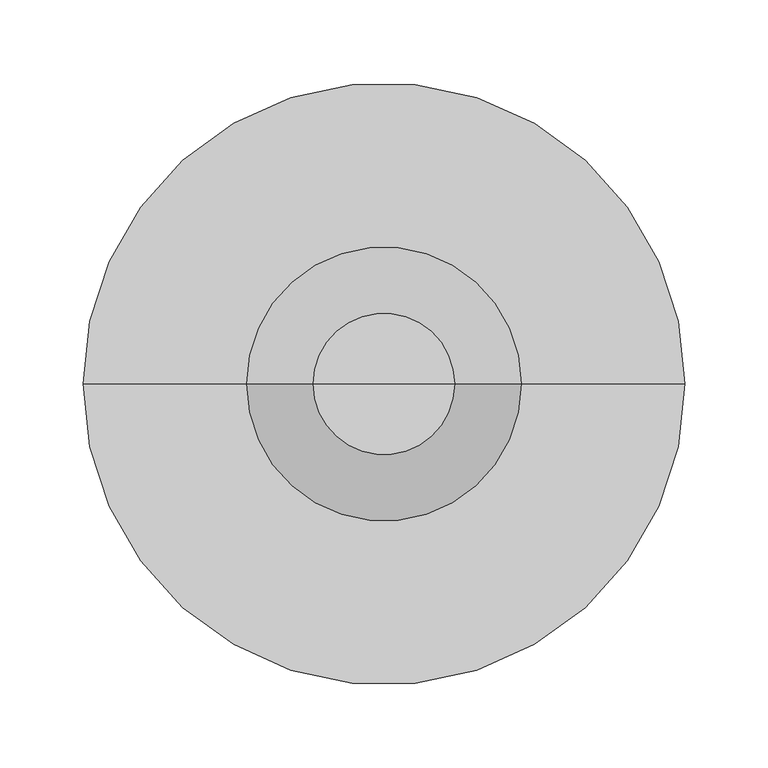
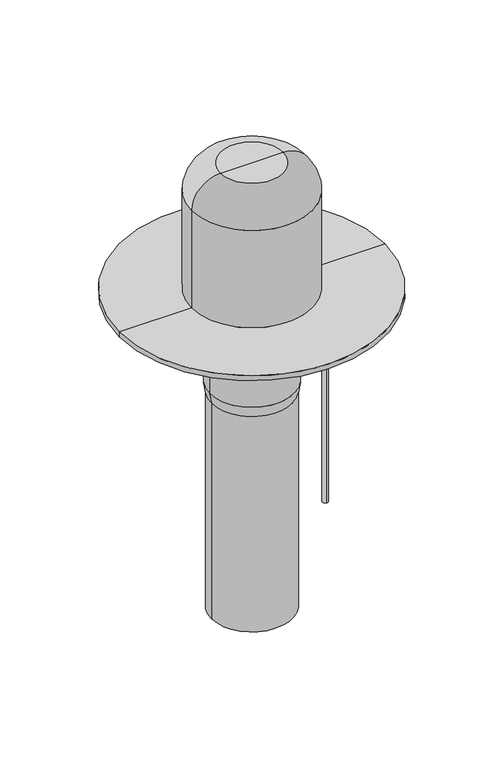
"""IFC4 building model written with IfcOpenShell, lengths in millimetres: flow terminal geometry, BIMLIB_Воронка_Кровельная_Fachmann_VO-PVC : 110х450."""

from ifc_helpers import new_model, si_unit, point, frame, frame_2d, origin, origin_with_axes, place, context, project, spatial, polyline, circle_curve, ellipse_curve, trimmed, segment, composite_curve, outline, extrude, source, transform, mapped, element, save
from ifc_brep_helpers import plane_surface, cylinder_surface, revolved_surface, advanced_brep


def flow_terminal_da2fb88d(model_context):
    return source(origin(), model_context, "Body", "SolidModel", [
        extrude(outline(composite_curve([segment(trimmed(circle_curve(frame_2d((100.0, 0.0)), 4.0), [point((100.0, 4.0))], [point((100.0, -4.0))], False, "CARTESIAN"), True, "CONTINUOUS"), segment(trimmed(circle_curve(frame_2d((100.0, 0.0)), 4.0), [point((100.0, -4.0))], [point((100.0, 4.0))], False, "CARTESIAN"), True, "CONTINUOUS")], self_intersect=False)), frame((0.0, 0.0, -335.0), z_axis=(0.0, 0.0, 1.0), x_axis=(1.0, 0.0, 0.0)), (0.0, 0.0, 1.0), 300.0),
        advanced_brep(
        [(55.0, 0.0, -450.0), (-55.0, 0.0, -450.0), (-55.0, 0.0, -140.0), (55.0, 0.0, -140.0), (-57.5, 0.0, -125.0), (57.5, 0.0, -125.0), (-57.5, 0.0, -75.0), (57.5, 0.0, -75.0), (-82.5, 0.0, -35.0), (82.5, 0.0, -35.0), (-111.5, 0.0, -35.0), (111.5, 0.0, -35.0), (-111.5, 0.0, 0.0), (111.5, 0.0, 0.0), (0.0, 0.0, 0.0)],
        [
            (0, 1, circle_curve(frame((0.0, 0.0, -450.0), z_axis=(0.0, 0.0, -1.0), x_axis=(-1.0, 0.0, 0.0)), 55.0)),
            (1, 0, circle_curve(frame((0.0, 0.0, -450.0), z_axis=(0.0, 0.0, -1.0), x_axis=(-1.0, 0.0, 0.0)), 55.0)),
            (1, 2),
            (2, 3, circle_curve(frame((0.0, 0.0, -140.0), z_axis=(0.0, 0.0, -1.0), x_axis=(-1.0, 0.0, 0.0)), 55.0)),
            (3, 0),
            (3, 2, circle_curve(frame((0.0, 0.0, -140.0), z_axis=(0.0, 0.0, -1.0), x_axis=(-1.0, 0.0, 0.0)), 55.0)),
            (4, 5, circle_curve(frame((0.0, 0.0, -125.0), z_axis=(0.0, 0.0, -1.0), x_axis=(1.0, 0.0, 0.0)), 57.5)),
            (5, 3),
            (2, 4),
            (5, 4, circle_curve(frame((0.0, 0.0, -125.0), z_axis=(0.0, 0.0, -1.0), x_axis=(1.0, 0.0, 0.0)), 57.5)),
            (4, 6),
            (6, 7, circle_curve(frame((0.0, 0.0, -75.0), z_axis=(0.0, 0.0, -1.0), x_axis=(1.0, 0.0, 0.0)), 57.5)),
            (7, 5),
            (7, 6, circle_curve(frame((0.0, 0.0, -75.0), z_axis=(0.0, 0.0, -1.0), x_axis=(1.0, 0.0, 0.0)), 57.5)),
            (6, 8),
            (8, 9, circle_curve(frame((0.0, 0.0, -35.0), z_axis=(0.0, 0.0, -1.0), x_axis=(1.0, 0.0, 0.0)), 82.5)),
            (9, 7),
            (9, 8, circle_curve(frame((0.0, 0.0, -35.0), z_axis=(0.0, 0.0, -1.0), x_axis=(1.0, 0.0, 0.0)), 82.5)),
            (8, 10),
            (10, 11, circle_curve(frame((0.0, 0.0, -35.0), z_axis=(0.0, 0.0, -1.0), x_axis=(1.0, 0.0, 0.0)), 111.5)),
            (11, 9),
            (11, 10, circle_curve(frame((0.0, 0.0, -35.0), z_axis=(0.0, 0.0, -1.0), x_axis=(1.0, 0.0, 0.0)), 111.5)),
            (10, 12),
            (12, 13, circle_curve(frame((0.0, 0.0, 0.0), z_axis=(0.0, 0.0, -1.0), x_axis=(1.0, 0.0, 0.0)), 111.5)),
            (13, 11),
            (13, 12, circle_curve(frame((0.0, 0.0, 0.0), z_axis=(0.0, 0.0, -1.0), x_axis=(1.0, 0.0, 0.0)), 111.5)),
            (12, 14),
            (14, 13),
        ],
        [
            plane_surface(frame((-55.0, 0.0, -450.0), z_axis=(0.0, 0.0, -1.0), x_axis=(0.0, 1.0, 0.0))),
            cylinder_surface(frame((0.0, 0.0, -450.0), z_axis=(0.0, 0.0, 1.0), x_axis=(-1.0, 0.0, 0.0)), 55.0),
            revolved_surface(polyline([(55.0, 0.0, -140.0), (57.5, 0.0, -125.0)]), (0.0, 0.0, 267.0), (0.0, 0.0, 1.0)),
            cylinder_surface(frame((0.0, 0.0, 267.0), z_axis=(0.0, 0.0, 1.0), x_axis=(1.0, 0.0, 0.0)), 57.5),
            revolved_surface(polyline([(57.5, 0.0, -75.0), (82.5, 0.0, -35.0)]), (0.0, 0.0, 267.0), (0.0, 0.0, 1.0)),
            plane_surface(frame((0.0, 0.0, -35.0), z_axis=(0.0, 0.0, -1.0), x_axis=(1.0, 0.0, 0.0))),
            cylinder_surface(frame((0.0, 0.0, 267.0), z_axis=(0.0, 0.0, 1.0), x_axis=(1.0, 0.0, 0.0)), 111.5),
            plane_surface(origin_with_axes()),
        ],
        [
            (0, [[1, 2]]),
            (1, [[-2, 3, 4, 5]]),
            (1, [[-1, -5, 6, -3]]),
            (2, [[7, 8, -4, 9]]),
            (2, [[-8, 10, -9, -6]]),
            (3, [[-7, 11, 12, 13]]),
            (3, [[-10, -13, 14, -11]]),
            (4, [[-12, 15, 16, 17]]),
            (4, [[-14, -17, 18, -15]]),
            (5, [[-16, 19, 20, 21]]),
            (5, [[-18, -21, 22, -19]]),
            (6, [[-20, 23, 24, 25]]),
            (6, [[-22, -25, 26, -23]]),
            (7, [[-24, 27, 28]]),
            (7, [[-26, -28, -27]]),
        ],
    ),
        advanced_brep(
        [(0.0, 0.0, 187.0), (42.5, 0.0, 187.0), (-42.5, 0.0, 187.0), (-181.0, 0.0, 0.0), (181.0, 0.0, 0.0), (0.0, 0.0, 0.0), (-181.0, 0.0, 7.0), (181.0, 0.0, 7.0), (-82.5, 0.0, 7.0), (82.5, 0.0, 7.0), (-82.5, 0.0, 147.0), (82.5, 0.0, 147.0)],
        [
            (0, 1),
            (1, 2, circle_curve(frame((0.0, 0.0, 187.0), z_axis=(0.0, 0.0, 1.0), x_axis=(1.0, 0.0, 0.0)), 42.5)),
            (2, 0),
            (2, 1, circle_curve(frame((0.0, 0.0, 187.0), z_axis=(0.0, 0.0, 1.0), x_axis=(1.0, 0.0, 0.0)), 42.5)),
            (3, 4, circle_curve(frame((0.0, 0.0, 0.0), z_axis=(0.0, 0.0, -1.0), x_axis=(1.0, 0.0, 0.0)), 181.0)),
            (4, 5),
            (5, 3),
            (4, 3, circle_curve(frame((0.0, 0.0, 0.0), z_axis=(0.0, 0.0, -1.0), x_axis=(1.0, 0.0, 0.0)), 181.0)),
            (6, 7, circle_curve(frame((0.0, 0.0, 7.0), z_axis=(0.0, 0.0, -1.0), x_axis=(1.0, 0.0, 0.0)), 181.0)),
            (7, 4),
            (3, 6),
            (7, 6, circle_curve(frame((0.0, 0.0, 7.0), z_axis=(0.0, 0.0, -1.0), x_axis=(1.0, 0.0, 0.0)), 181.0)),
            (8, 9, circle_curve(frame((0.0, 0.0, 7.0), z_axis=(0.0, 0.0, -1.0), x_axis=(1.0, 0.0, 0.0)), 82.5)),
            (9, 7),
            (6, 8),
            (9, 8, circle_curve(frame((0.0, 0.0, 7.0), z_axis=(0.0, 0.0, -1.0), x_axis=(1.0, 0.0, 0.0)), 82.5)),
            (10, 11, circle_curve(frame((0.0, 0.0, 147.0), z_axis=(0.0, 0.0, -1.0), x_axis=(1.0, 0.0, 0.0)), 82.5)),
            (11, 9),
            (8, 10),
            (11, 10, circle_curve(frame((0.0, 0.0, 147.0), z_axis=(0.0, 0.0, -1.0), x_axis=(1.0, 0.0, 0.0)), 82.5)),
            (1, 11, circle_curve(frame((42.5, 0.0, 147.0), z_axis=(0.0, 1.0, 0.0), x_axis=(1.0, 0.0, 0.0)), 40.0)),
            (10, 2, circle_curve(frame((-42.5, 0.0, 147.0), z_axis=(0.0, 1.0, 0.0), x_axis=(-1.0, 0.0, 0.0)), 40.0)),
        ],
        [
            plane_surface(frame((0.0, 0.0, 187.0), z_axis=(0.0, 0.0, 1.0), x_axis=(1.0, 0.0, 0.0))),
            plane_surface(frame((0.0, 0.0, 0.0), z_axis=(0.0, 0.0, -1.0), x_axis=(1.0, 0.0, 0.0))),
            cylinder_surface(frame((0.0, 0.0, 337.0), z_axis=(0.0, 0.0, 1.0), x_axis=(1.0, 0.0, 0.0)), 181.0),
            plane_surface(frame((0.0, 0.0, 7.0), z_axis=(0.0, 0.0, 1.0), x_axis=(1.0, 0.0, 0.0))),
            cylinder_surface(frame((0.0, 0.0, 337.0), z_axis=(0.0, 0.0, 1.0), x_axis=(1.0, 0.0, 0.0)), 82.5),
            revolved_surface(trimmed(ellipse_curve(frame((42.5, 0.0, 147.0), z_axis=(0.0, -1.0, 0.0), x_axis=(1.0, 0.0, 0.0)), 40.0, 40.0), [point((82.5, 0.0, 147.0))], [point((42.5, 0.0, 187.0))], True, "CARTESIAN"), (0.0, 0.0, 337.0), (0.0, 0.0, 1.0)),
        ],
        [
            (0, [[1, 2, 3]]),
            (0, [[-3, 4, -1]]),
            (1, [[5, 6, 7]]),
            (1, [[8, -7, -6]]),
            (2, [[9, 10, -5, 11]]),
            (2, [[12, -11, -8, -10]]),
            (3, [[13, 14, -9, 15]]),
            (3, [[16, -15, -12, -14]]),
            (4, [[17, 18, -13, 19]]),
            (4, [[20, -19, -16, -18]]),
            (5, [[-2, 21, -17, 22]]),
            (5, [[-4, -22, -20, -21]]),
        ],
    ),
    ])


if __name__ == "__main__":
    model = new_model("IFC4")
    model_context = context("Model", 3, world=origin())
    ifc_project = project(units=[si_unit("LENGTHUNIT", "METRE", prefix="MILLI")], contexts=[model_context])
    site = spatial("IfcSite", under=ifc_project)
    building = spatial("IfcBuilding", under=site)
    placement = place(None, origin())
    flow_terminal_shape = flow_terminal_da2fb88d(model_context)
    element("IfcFlowTerminal", 1, ObjectType="BIMLIB_Воронка_Кровельная_Fachmann_VO-PVC : 110х450", at=placement, inside=building, context=model_context, shape_type="MappedRepresentation", body=[
        mapped(flow_terminal_shape, transform((0.0, 0.0, 0.0), x_axis=(1.0, 0.0, 0.0), y_axis=(0.0, 1.0, 0.0), z_axis=(0.0, 0.0, 1.0))),
    ])
    save(model, "model.ifc")
